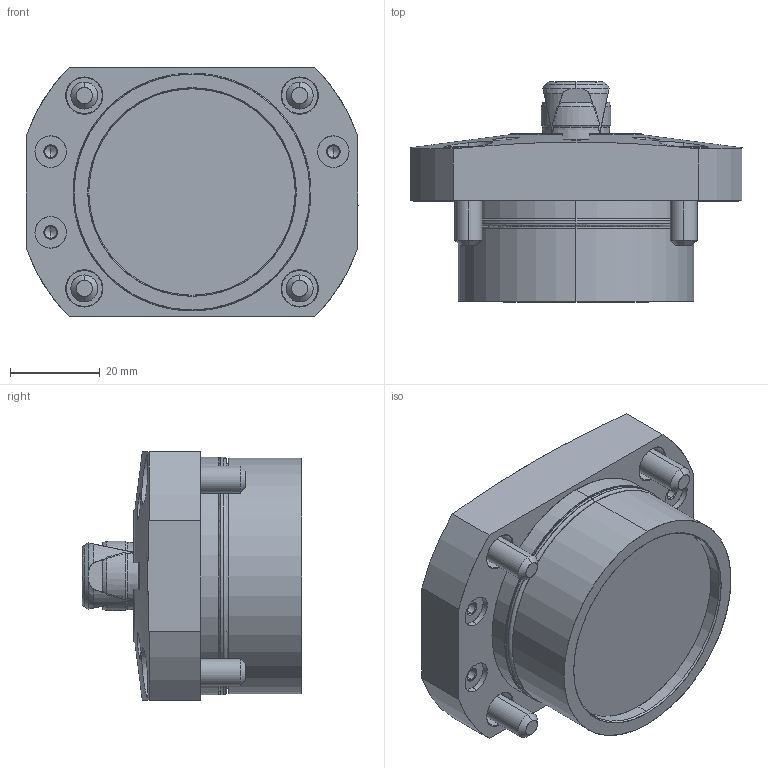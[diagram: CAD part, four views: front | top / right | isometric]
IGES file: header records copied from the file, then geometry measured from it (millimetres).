
Start section: SolidWorks IGES file using analytic representation for surfaces
Global section: file name: L:\電子カタログ-3Ｄ\SFH\ｱｾﾝﾌﾞﾘ\SFH3160_N.IGS; native system: SolidWorks 2010; preprocessor: SolidWorks 2010; author: D214; date: 101104.082506; units: millimetre
Bounding box: 74 x 49 x 55.5 mm (x, y, z)
Surface area: 29986.7 mm2 (no closed solid volume)
Topology: 0 solids, 0 shells, 554 faces, 7131 edges, 7103 vertices
Faces by surface type: revolution 312, bspline 242
